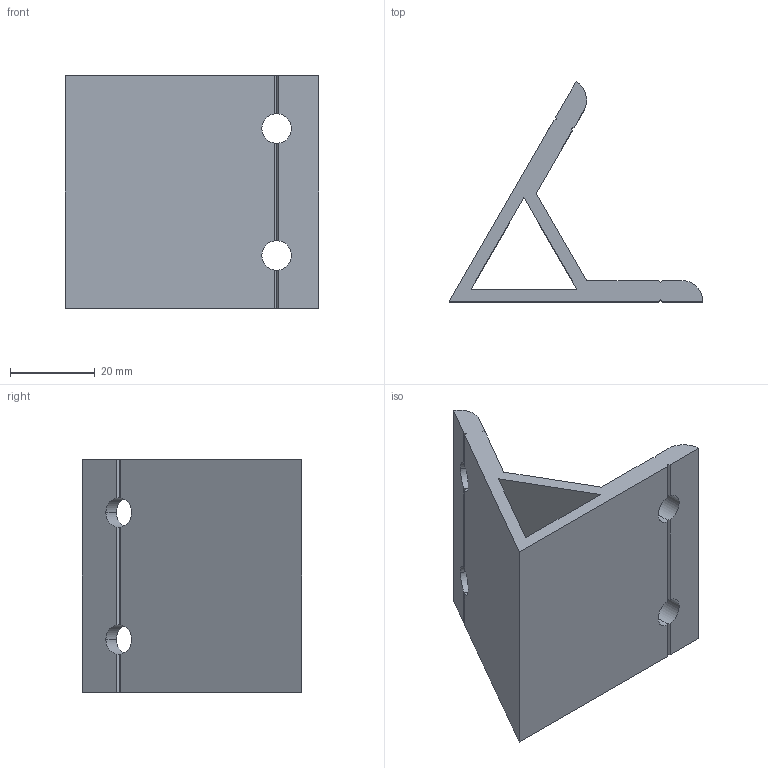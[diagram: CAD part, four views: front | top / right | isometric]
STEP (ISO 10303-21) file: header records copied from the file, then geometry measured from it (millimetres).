
FILE_DESCRIPTION (( 'STEP AP203' ), '1' );
FILE_NAME ('DALV6055-6.STEP', '2019-04-24T09:01:56', ( '' ), ( '' ), 'SwSTEP 2.0', 'SolidWorks 2012', '' );
FILE_SCHEMA (( 'CONFIG_CONTROL_DESIGN' ));
Length unit declared in the file: millimetre
Products named in the file (1): DALV6055-6
Bounding box: 60 x 51.96 x 55 mm (x, y, z)
Volume: 27874.3 mm3; surface area: 16611.9 mm2
Topology: 1 solids, 1 shells, 48 faces, 154 edges, 100 vertices
Faces by surface type: plane 38, cylinder 10
Entity records: 1779 total; most frequent: CARTESIAN_POINT 399, ORIENTED_EDGE 308, DIRECTION 248, EDGE_CURVE 154, VERTEX_POINT 100, LINE 94, VECTOR 94, AXIS2_PLACEMENT_3D 77
